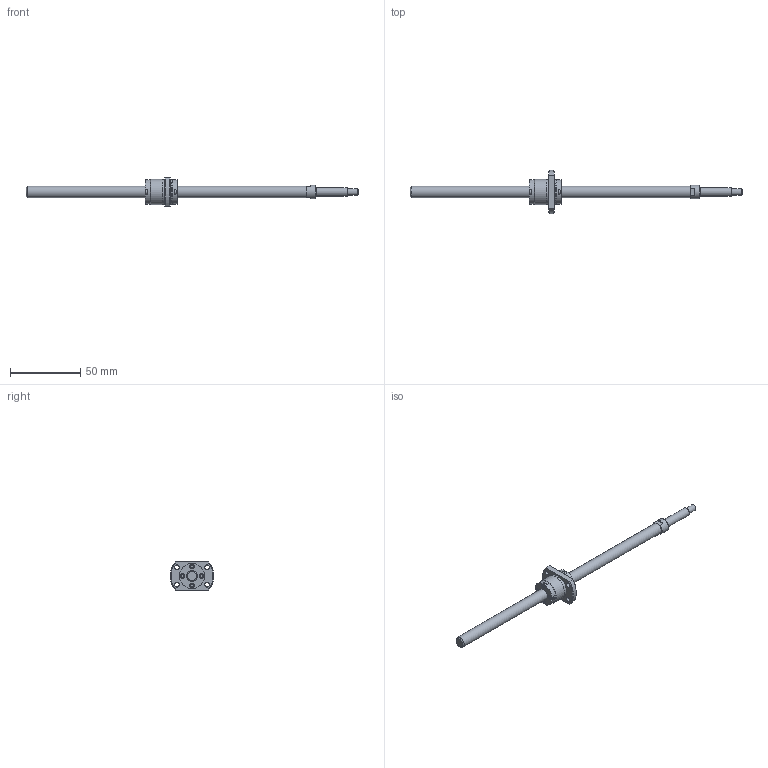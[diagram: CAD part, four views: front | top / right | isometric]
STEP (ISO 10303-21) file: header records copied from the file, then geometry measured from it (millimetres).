
FILE_DESCRIPTION(/* description */ ('STEP AP214'),/* implementation_level */ '2;1');
FILE_NAME(/* name */ 'SRT0820-196R237C7A0X(85Processing)',/* time_stamp */ '2026-08-04T20:06:55+02:00',/* author */ ('License CC BY-ND 4.0'),/* organization */ ('CADENAS'),/* preprocessor_version */ 'ST-DEVELOPER v20',/* originating_system */ 'PARTsolutions',/* authorisation */ ' ');
FILE_SCHEMA (('AUTOMOTIVE_DESIGN {1 0 10303 214 3 1 1}'));
Length unit declared in the file: millimetre
Products named in the file (3): SRT0820-196R237C7A0X(85Processing); SRT0820-196R270ACt7Processing53Shaft; SRT0820Nut
Assembly tree (2 placements, depth 2):
  SRT0820-196R237C7A0X(85Processing)
    SRT0820-196R270ACt7Processing53Shaft
    SRT0820Nut
Bounding box: 237 x 30.91 x 20 mm (x, y, z)
Volume: 16865.5 mm3; surface area: 9246.1 mm2
Topology: 2 solids, 2 shells, 150 faces, 359 edges, 236 vertices
Faces by surface type: plane 107, cylinder 32, cone 10, torus 1
Full cylindrical faces by diameter (mm): 3 x8, 3.4 x4, 4.5 x1, 6 x1, 8 x2, 9.5 x1, 17.5 x2, 17.7 x1, 18 x2
Entity records: 4267 total; most frequent: CARTESIAN_POINT 737, DIRECTION 718, ORIENTED_EDGE 654, EDGE_CURVE 327, AXIS2_PLACEMENT_3D 246, VERTEX_POINT 233, LINE 226, VECTOR 226
